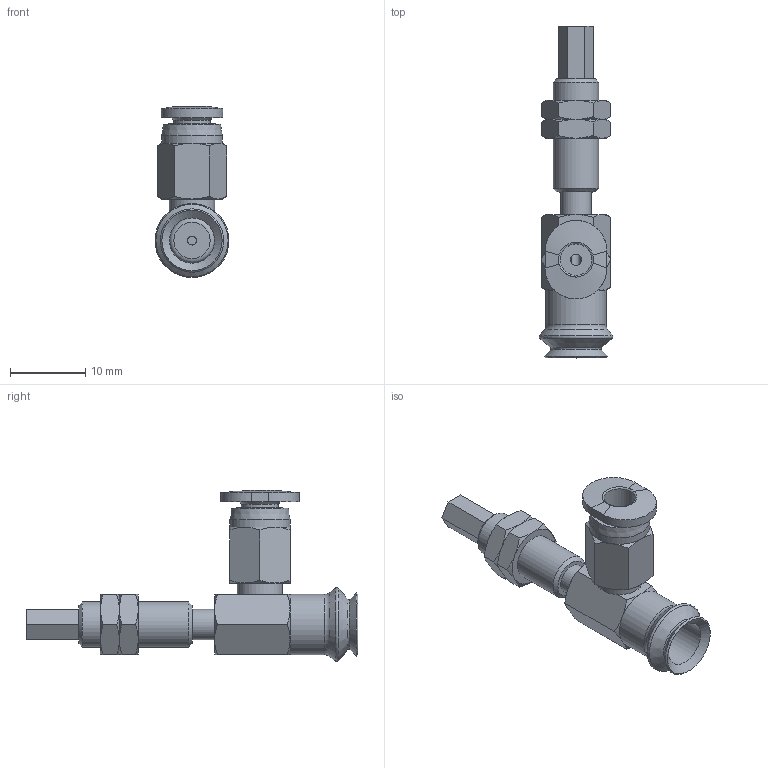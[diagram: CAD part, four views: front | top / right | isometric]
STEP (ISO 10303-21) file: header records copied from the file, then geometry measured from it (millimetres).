
FILE_DESCRIPTION(('STEP AP203'),'1');
FILE_NAME('-O.stp','2025-04-23T07:13:35',(' '),(' '),'Spatial InterOp 3D',' ',' ');
FILE_SCHEMA(('CONFIG_CONTROL_DESIGN'));
Length unit declared in the file: millimetre
Products named in the file (7): BNABPJYS-8-3-※-O; CONNECTOR_S-8-3; NUT-NAPJ-8-3-s; NAPJTS-8-3-FBODY; NAPJTS-8-3-MBODY; BPJG-8-※; PC-C_04-M3
Assembly tree (7 placements, depth 2):
  BNABPJYS-8-3-※-O
    CONNECTOR_S-8-3
    NUT-NAPJ-8-3-s  x2
    NAPJTS-8-3-FBODY
    NAPJTS-8-3-MBODY
    BPJG-8-※
    PC-C_04-M3
Bounding box: 9.8 x 44 x 22.67 mm (x, y, z)
Volume: 1533.3 mm3; surface area: 3083.9 mm2
Topology: 6 solids, 8 shells, 180 faces, 376 edges, 224 vertices
Faces by surface type: plane 72, cone 69, cylinder 23, torus 9, bspline 4, revolution 3
Full cylindrical faces by diameter (mm): 1.2 x1, 2.459 x2, 2.5 x2, 3 x2, 4 x4, 4.9 x1, 5.188 x2, 6 x4, 6.1 x1, 8 x2
Entity records: 4592 total; most frequent: CARTESIAN_POINT 1241, DIRECTION 625, ORIENTED_EDGE 542, AXIS2_PLACEMENT_3D 274, EDGE_CURVE 272, EDGE_LOOP 228, VERTEX_POINT 188, FACE_OUTER_BOUND 126
